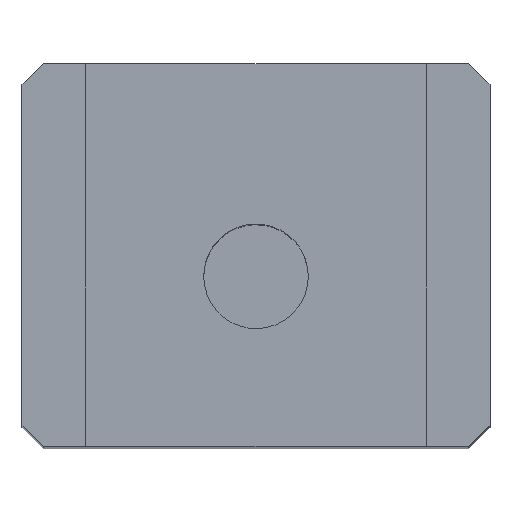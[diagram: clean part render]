
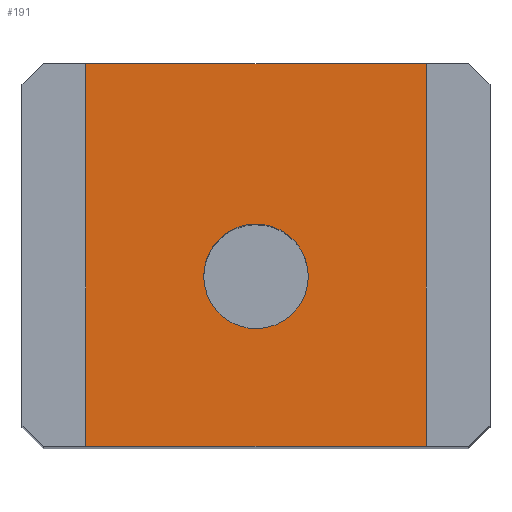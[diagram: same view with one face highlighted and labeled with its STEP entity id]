
A CAD part, top view. The second image highlights one B-rep face of the part: STEP entity #191.
In plain terms, the highlighted planar face has unit normal (0, 0, 1).
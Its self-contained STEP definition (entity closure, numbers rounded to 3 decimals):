
#155=AXIS2_PLACEMENT_3D('Plane Axis2P3D',#152,#153,#154) ;
#175=AXIS2_PLACEMENT_3D('Circle Axis2P3D',#173,#174,$) ;
#184=AXIS2_PLACEMENT_3D('Circle Axis2P3D',#182,#183,$) ;
#41=CARTESIAN_POINT('Vertex',(-8.,-8.,55.)) ;
#46=CARTESIAN_POINT('Line Origine',(-8.,1.,55.)) ;
#50=CARTESIAN_POINT('Vertex',(-8.,10.,55.)) ;
#81=CARTESIAN_POINT('Vertex',(8.,10.,55.)) ;
#86=CARTESIAN_POINT('Line Origine',(8.,1.,55.)) ;
#90=CARTESIAN_POINT('Vertex',(8.,-8.,55.)) ;
#152=CARTESIAN_POINT('Axis2P3D Location',(0.,0.,55.)) ;
#157=CARTESIAN_POINT('Line Origine',(0.,-8.,55.)) ;
#162=CARTESIAN_POINT('Line Origine',(0.,10.,55.)) ;
#173=CARTESIAN_POINT('Axis2P3D Location',(0.,0.,55.)) ;
#177=CARTESIAN_POINT('Vertex',(2.158,-1.179,55.)) ;
#179=CARTESIAN_POINT('Vertex',(-2.158,1.179,55.)) ;
#182=CARTESIAN_POINT('Axis2P3D Location',(0.,0.,55.)) ;
#47=DIRECTION('Vector Direction',(0.,-1.,0.)) ;
#87=DIRECTION('Vector Direction',(0.,-1.,0.)) ;
#153=DIRECTION('Axis2P3D Direction',(0.,0.,1.)) ;
#154=DIRECTION('Axis2P3D XDirection',(1.,0.,0.)) ;
#158=DIRECTION('Vector Direction',(-1.,0.,0.)) ;
#163=DIRECTION('Vector Direction',(-1.,0.,0.)) ;
#174=DIRECTION('Axis2P3D Direction',(0.,0.,1.)) ;
#183=DIRECTION('Axis2P3D Direction',(0.,0.,1.)) ;
#48=VECTOR('Line Direction',#47,1.) ;
#88=VECTOR('Line Direction',#87,1.) ;
#159=VECTOR('Line Direction',#158,1.) ;
#164=VECTOR('Line Direction',#163,1.) ;
#168=ORIENTED_EDGE('',*,*,#52,.F.) ;
#169=ORIENTED_EDGE('',*,*,#161,.T.) ;
#170=ORIENTED_EDGE('',*,*,#92,.F.) ;
#171=ORIENTED_EDGE('',*,*,#166,.T.) ;
#188=ORIENTED_EDGE('',*,*,#181,.F.) ;
#189=ORIENTED_EDGE('',*,*,#186,.F.) ;
#190=FACE_BOUND('',#187,.T.) ;
#191=ADVANCED_FACE('\X2\96F64EF651E04F554F53\X0\',(#172,#190),#156,.T.) ;
#176=CIRCLE('generated circle',#175,2.459) ;
#185=CIRCLE('generated circle',#184,2.459) ;
#52=EDGE_CURVE('',#42,#51,#49,.F.) ;
#92=EDGE_CURVE('',#82,#91,#89,.T.) ;
#161=EDGE_CURVE('',#42,#91,#160,.F.) ;
#166=EDGE_CURVE('',#82,#51,#165,.T.) ;
#181=EDGE_CURVE('',#178,#180,#176,.T.) ;
#186=EDGE_CURVE('',#180,#178,#185,.T.) ;
#167=EDGE_LOOP('',(#168,#169,#170,#171)) ;
#187=EDGE_LOOP('',(#188,#189)) ;
#172=FACE_OUTER_BOUND('',#167,.T.) ;
#49=LINE('Line',#46,#48) ;
#89=LINE('Line',#86,#88) ;
#160=LINE('Line',#157,#159) ;
#165=LINE('Line',#162,#164) ;
#156=PLANE('Plane',#155) ;
#42=VERTEX_POINT('',#41) ;
#51=VERTEX_POINT('',#50) ;
#82=VERTEX_POINT('',#81) ;
#91=VERTEX_POINT('',#90) ;
#178=VERTEX_POINT('',#177) ;
#180=VERTEX_POINT('',#179) ;
